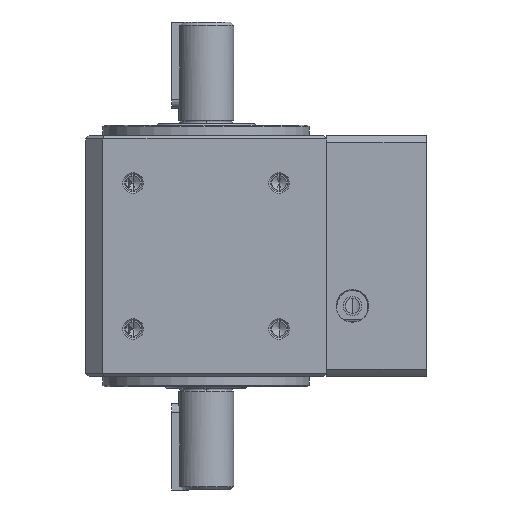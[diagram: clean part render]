
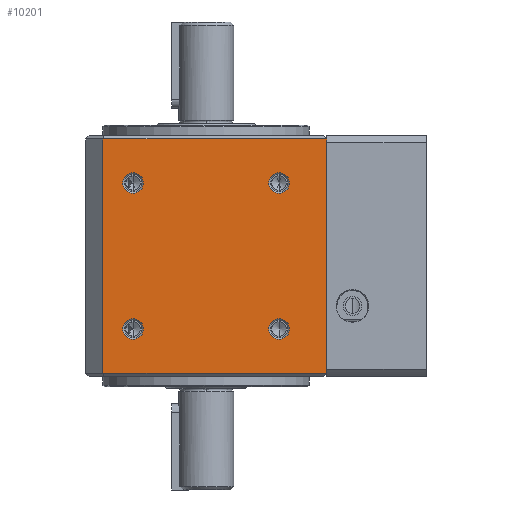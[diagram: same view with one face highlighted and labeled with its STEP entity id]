
A CAD part, front view. The second image highlights one B-rep face of the part: STEP entity #10201.
In plain terms, the highlighted planar face has unit normal (0, -1, 0).
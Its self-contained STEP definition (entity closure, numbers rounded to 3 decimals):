
#4124 = AXIS2_PLACEMENT_3D ( 'NONE', #4169, #4166, #4165 ) ;
#4128 = CARTESIAN_POINT ( 'NONE',  ( -21.213, -35., -81.213 ) ) ;
#4158 = CARTESIAN_POINT ( 'NONE',  ( 21.213, -35., -75.213 ) ) ;
#4163 = CARTESIAN_POINT ( 'NONE',  ( 21.213, -35., -81.213 ) ) ;
#4165 = DIRECTION ( 'NONE',  ( 0., 0., -1. ) ) ;
#4166 = DIRECTION ( 'NONE',  ( 0., -1., 0. ) ) ;
#4169 = CARTESIAN_POINT ( 'NONE',  ( 21.213, -35., -78.213 ) ) ;
#4177 = CIRCLE ( 'NONE', #4124, 3. ) ;
#4182 = CIRCLE ( 'NONE', #4218, 3. ) ;
#4208 = CARTESIAN_POINT ( 'NONE',  ( 21.213, -35., -38.787 ) ) ;
#4218 = AXIS2_PLACEMENT_3D ( 'NONE', #4261, #4260, #4259 ) ;
#4255 = CARTESIAN_POINT ( 'NONE',  ( 21.213, -35., -32.787 ) ) ;
#4259 = DIRECTION ( 'NONE',  ( 0., 0., -1. ) ) ;
#4260 = DIRECTION ( 'NONE',  ( 0., -1., 0. ) ) ;
#4261 = CARTESIAN_POINT ( 'NONE',  ( 21.213, -35., -35.787 ) ) ;
#4786 = CIRCLE ( 'NONE', #4831, 3. ) ;
#4787 = CARTESIAN_POINT ( 'NONE',  ( -30., -35., -23. ) ) ;
#4788 = CARTESIAN_POINT ( 'NONE',  ( -30., -35., -91. ) ) ;
#4812 = AXIS2_PLACEMENT_3D ( 'NONE', #4852, #4851, #4850 ) ;
#4813 = AXIS2_PLACEMENT_3D ( 'NONE', #4858, #4857, #4856 ) ;
#4816 = DIRECTION ( 'NONE',  ( 0., 0., -1. ) ) ;
#4817 = DIRECTION ( 'NONE',  ( 0., -1., 0. ) ) ;
#4818 = CARTESIAN_POINT ( 'NONE',  ( 21.213, -35., -78.213 ) ) ;
#4831 = AXIS2_PLACEMENT_3D ( 'NONE', #4818, #4817, #4816 ) ;
#4836 = PLANE ( 'NONE',  #4879 ) ;
#4837 = FACE_BOUND ( 'NONE', #10265, .T. ) ;
#4841 = CIRCLE ( 'NONE', #4887, 3. ) ;
#4844 = DIRECTION ( 'NONE',  ( 1., 0., 0. ) ) ;
#4845 = VECTOR ( 'NONE', #4844, 1000. ) ;
#4847 = CARTESIAN_POINT ( 'NONE',  ( -35., -35., -23. ) ) ;
#4848 = LINE ( 'NONE', #4847, #4845 ) ;
#4850 = DIRECTION ( 'NONE',  ( 0., 0., -1. ) ) ;
#4851 = DIRECTION ( 'NONE',  ( 0., -1., 0. ) ) ;
#4852 = CARTESIAN_POINT ( 'NONE',  ( 21.213, -35., -35.787 ) ) ;
#4853 = FACE_BOUND ( 'NONE', #10206, .T. ) ;
#4855 = CIRCLE ( 'NONE', #4812, 3. ) ;
#4856 = DIRECTION ( 'NONE',  ( 0., 0., -1. ) ) ;
#4857 = DIRECTION ( 'NONE',  ( 0., -1., 0. ) ) ;
#4858 = CARTESIAN_POINT ( 'NONE',  ( -21.213, -35., -78.213 ) ) ;
#4859 = CIRCLE ( 'NONE', #4813, 3. ) ;
#4863 = DIRECTION ( 'NONE',  ( -1., 0., 0. ) ) ;
#4864 = VECTOR ( 'NONE', #4863, 1000. ) ;
#4865 = CARTESIAN_POINT ( 'NONE',  ( -35., -35., -91. ) ) ;
#4866 = LINE ( 'NONE', #4865, #4864 ) ;
#4874 = DIRECTION ( 'NONE',  ( 0., 0., 1. ) ) ;
#4875 = DIRECTION ( 'NONE',  ( 0., 1., 0. ) ) ;
#4878 = CARTESIAN_POINT ( 'NONE',  ( -35., -35., -19. ) ) ;
#4879 = AXIS2_PLACEMENT_3D ( 'NONE', #4878, #4875, #4874 ) ;
#4881 = FACE_BOUND ( 'NONE', #10197, .T. ) ;
#4883 = FACE_BOUND ( 'NONE', #10204, .T. ) ;
#4884 = DIRECTION ( 'NONE',  ( 0., 0., -1. ) ) ;
#4885 = DIRECTION ( 'NONE',  ( 0., -1., 0. ) ) ;
#4886 = CARTESIAN_POINT ( 'NONE',  ( -21.213, -35., -35.787 ) ) ;
#4887 = AXIS2_PLACEMENT_3D ( 'NONE', #4886, #4885, #4884 ) ;
#4889 = FACE_OUTER_BOUND ( 'NONE', #10212, .T. ) ;
#4914 = DIRECTION ( 'NONE',  ( 0., 0., 1. ) ) ;
#4915 = VECTOR ( 'NONE', #4914, 1000. ) ;
#4916 = CARTESIAN_POINT ( 'NONE',  ( -30., -35., -19. ) ) ;
#4917 = LINE ( 'NONE', #4916, #4915 ) ;
#6438 = CARTESIAN_POINT ( 'NONE',  ( 35.001, -35., -23. ) ) ;
#6484 = CARTESIAN_POINT ( 'NONE',  ( 35.001, -35., -91. ) ) ;
#6540 = DIRECTION ( 'NONE',  ( 0., 0., -1. ) ) ;
#6541 = VECTOR ( 'NONE', #6540, 1000. ) ;
#6542 = CARTESIAN_POINT ( 'NONE',  ( 35.001, -35., -19. ) ) ;
#6543 = LINE ( 'NONE', #6542, #6541 ) ;
#9757 = EDGE_CURVE ( 'NONE', #9763, #9761, #4177, .T. ) ;
#9761 = VERTEX_POINT ( 'NONE', #4163 ) ;
#9763 = VERTEX_POINT ( 'NONE', #4158 ) ;
#9766 = VERTEX_POINT ( 'NONE', #4128 ) ;
#9795 = VERTEX_POINT ( 'NONE', #4208 ) ;
#9796 = EDGE_CURVE ( 'NONE', #9799, #9795, #4182, .T. ) ;
#9799 = VERTEX_POINT ( 'NONE', #4255 ) ;
#10110 = VERTEX_POINT ( 'NONE', #4788 ) ;
#10121 = VERTEX_POINT ( 'NONE', #4787 ) ;
#10131 = EDGE_CURVE ( 'NONE', #9761, #9763, #4786, .T. ) ;
#10146 = EDGE_CURVE ( 'NONE', #9766, #23759, #4859, .T. ) ;
#10147 = EDGE_CURVE ( 'NONE', #9795, #9799, #4855, .T. ) ;
#10158 = ORIENTED_EDGE ( 'NONE', *, *, #9757, .F. ) ;
#10181 = EDGE_CURVE ( 'NONE', #10121, #22258, #4848, .T. ) ;
#10193 = EDGE_CURVE ( 'NONE', #23716, #23552, #4841, .T. ) ;
#10197 = EDGE_LOOP ( 'NONE', ( #10264, #10200 ) ) ;
#10200 = ORIENTED_EDGE ( 'NONE', *, *, #9796, .F. ) ;
#10201 = ADVANCED_FACE ( 'NONE', ( #4889, #4883, #4853, #4837, #4881 ), #4836, .F. ) ;
#10202 = ORIENTED_EDGE ( 'NONE', *, *, #10193, .F. ) ;
#10203 = ORIENTED_EDGE ( 'NONE', *, *, #10181, .F. ) ;
#10204 = EDGE_LOOP ( 'NONE', ( #10202, #10207 ) ) ;
#10205 = ORIENTED_EDGE ( 'NONE', *, *, #10146, .F. ) ;
#10206 = EDGE_LOOP ( 'NONE', ( #10205, #10263 ) ) ;
#10207 = ORIENTED_EDGE ( 'NONE', *, *, #23578, .F. ) ;
#10208 = ORIENTED_EDGE ( 'NONE', *, *, #10131, .F. ) ;
#10212 = EDGE_LOOP ( 'NONE', ( #10226, #10217, #10203, #10215 ) ) ;
#10215 = ORIENTED_EDGE ( 'NONE', *, *, #10230, .F. ) ;
#10217 = ORIENTED_EDGE ( 'NONE', *, *, #22335, .F. ) ;
#10226 = ORIENTED_EDGE ( 'NONE', *, *, #10228, .F. ) ;
#10228 = EDGE_CURVE ( 'NONE', #22304, #10110, #4866, .T. ) ;
#10230 = EDGE_CURVE ( 'NONE', #10110, #10121, #4917, .T. ) ;
#10263 = ORIENTED_EDGE ( 'NONE', *, *, #23753, .F. ) ;
#10264 = ORIENTED_EDGE ( 'NONE', *, *, #10147, .F. ) ;
#10265 = EDGE_LOOP ( 'NONE', ( #10208, #10158 ) ) ;
#12529 = CARTESIAN_POINT ( 'NONE',  ( -21.213, -35., -32.787 ) ) ;
#12582 = CIRCLE ( 'NONE', #12591, 3. ) ;
#12591 = AXIS2_PLACEMENT_3D ( 'NONE', #12607, #12606, #12605 ) ;
#12605 = DIRECTION ( 'NONE',  ( 0., 0., -1. ) ) ;
#12606 = DIRECTION ( 'NONE',  ( 0., -1., 0. ) ) ;
#12607 = CARTESIAN_POINT ( 'NONE',  ( -21.213, -35., -35.787 ) ) ;
#13046 = CARTESIAN_POINT ( 'NONE',  ( -21.213, -35., -38.787 ) ) ;
#13068 = AXIS2_PLACEMENT_3D ( 'NONE', #13093, #13092, #13091 ) ;
#13091 = DIRECTION ( 'NONE',  ( 0., 0., -1. ) ) ;
#13092 = DIRECTION ( 'NONE',  ( 0., -1., 0. ) ) ;
#13093 = CARTESIAN_POINT ( 'NONE',  ( -21.213, -35., -78.213 ) ) ;
#13101 = CIRCLE ( 'NONE', #13068, 3. ) ;
#13103 = CARTESIAN_POINT ( 'NONE',  ( -21.213, -35., -75.213 ) ) ;
#22258 = VERTEX_POINT ( 'NONE', #6438 ) ;
#22304 = VERTEX_POINT ( 'NONE', #6484 ) ;
#22335 = EDGE_CURVE ( 'NONE', #22258, #22304, #6543, .T. ) ;
#23552 = VERTEX_POINT ( 'NONE', #12529 ) ;
#23578 = EDGE_CURVE ( 'NONE', #23552, #23716, #12582, .T. ) ;
#23716 = VERTEX_POINT ( 'NONE', #13046 ) ;
#23753 = EDGE_CURVE ( 'NONE', #23759, #9766, #13101, .T. ) ;
#23759 = VERTEX_POINT ( 'NONE', #13103 ) ;
